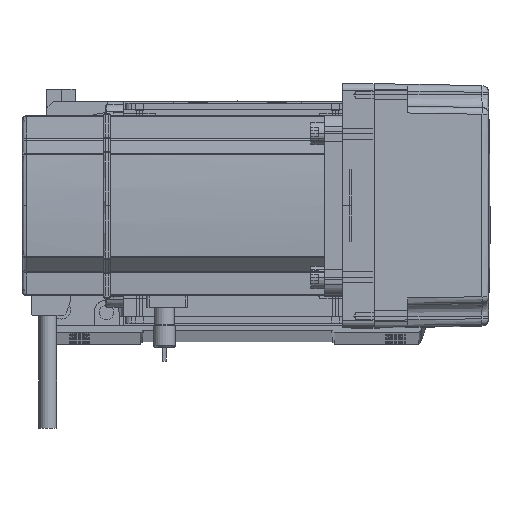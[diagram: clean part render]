
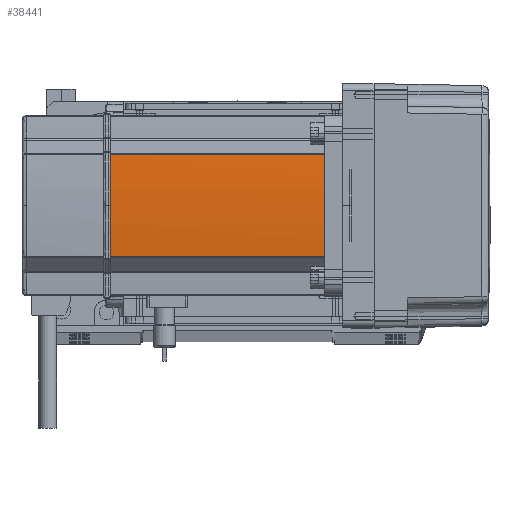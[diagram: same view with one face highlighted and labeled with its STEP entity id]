
A CAD part, top view. The second image highlights one B-rep face of the part: STEP entity #38441.
In plain terms, the highlighted cylindrical face has radius 270 mm (diameter 540 mm), a partial arc.
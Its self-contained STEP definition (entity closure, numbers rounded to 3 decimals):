
#366 = CARTESIAN_POINT ( 'NONE',  ( -39.042, -22.724, 0. ) ) ;
#3250 = CARTESIAN_POINT ( 'NONE',  ( 230., 0., 39. ) ) ;
#3257 = EDGE_LOOP ( 'NONE', ( #53293, #23227, #5474, #30012, #52969 ) ) ;
#3406 = VERTEX_POINT ( 'NONE', #59923 ) ;
#4244 = CIRCLE ( 'NONE', #34219, 270. ) ;
#5360 = FACE_OUTER_BOUND ( 'NONE', #3257, .T. ) ;
#5474 = ORIENTED_EDGE ( 'NONE', *, *, #11041, .T. ) ;
#5547 = AXIS2_PLACEMENT_3D ( 'NONE', #3250, #38867, #28820 ) ;
#6357 = CARTESIAN_POINT ( 'NONE',  ( 230., 0., 134. ) ) ;
#6747 = CIRCLE ( 'NONE', #54566, 270. ) ;
#11041 = EDGE_CURVE ( 'NONE', #57962, #34249, #50088, .T. ) ;
#13545 = CARTESIAN_POINT ( 'NONE',  ( -39.042, -22.724, 134. ) ) ;
#14974 = DIRECTION ( 'NONE',  ( 0., 0., 1. ) ) ;
#17435 = CARTESIAN_POINT ( 'NONE',  ( -39.042, 22.724, 0. ) ) ;
#18093 = DIRECTION ( 'NONE',  ( 0., 0., -1. ) ) ;
#18839 = EDGE_CURVE ( 'NONE', #41928, #34249, #33074, .T. ) ;
#20083 = DIRECTION ( 'NONE',  ( 1., 0., 0. ) ) ;
#23227 = ORIENTED_EDGE ( 'NONE', *, *, #34364, .T. ) ;
#28820 = DIRECTION ( 'NONE',  ( 1., 0., 0. ) ) ;
#30012 = ORIENTED_EDGE ( 'NONE', *, *, #18839, .F. ) ;
#30167 = VECTOR ( 'NONE', #18093, 1000. ) ;
#32384 = DIRECTION ( 'NONE',  ( 0., 0., -1. ) ) ;
#33074 = CIRCLE ( 'NONE', #5547, 270. ) ;
#34219 = AXIS2_PLACEMENT_3D ( 'NONE', #6357, #32384, #62189 ) ;
#34249 = VERTEX_POINT ( 'NONE', #43891 ) ;
#34364 = EDGE_CURVE ( 'NONE', #3406, #57962, #6747, .T. ) ;
#37745 = LINE ( 'NONE', #366, #44011 ) ;
#38441 = ADVANCED_FACE ( 'NONE', ( #5360 ), #62688, .T. ) ;
#38867 = DIRECTION ( 'NONE',  ( 0., 0., -1. ) ) ;
#41928 = VERTEX_POINT ( 'NONE', #65393 ) ;
#43891 = CARTESIAN_POINT ( 'NONE',  ( -39.042, 22.724, 39. ) ) ;
#44011 = VECTOR ( 'NONE', #61507, 1000. ) ;
#45075 = EDGE_CURVE ( 'NONE', #55464, #3406, #4244, .T. ) ;
#50084 = CARTESIAN_POINT ( 'NONE',  ( 230., 0., 134. ) ) ;
#50088 = LINE ( 'NONE', #17435, #30167 ) ;
#52969 = ORIENTED_EDGE ( 'NONE', *, *, #62962, .T. ) ;
#53293 = ORIENTED_EDGE ( 'NONE', *, *, #45075, .T. ) ;
#54566 = AXIS2_PLACEMENT_3D ( 'NONE', #50084, #60087, #55612 ) ;
#55464 = VERTEX_POINT ( 'NONE', #13545 ) ;
#55612 = DIRECTION ( 'NONE',  ( 1., 0., 0. ) ) ;
#57962 = VERTEX_POINT ( 'NONE', #62108 ) ;
#59923 = CARTESIAN_POINT ( 'NONE',  ( -40., 0., 134. ) ) ;
#60087 = DIRECTION ( 'NONE',  ( 0., 0., -1. ) ) ;
#60163 = CARTESIAN_POINT ( 'NONE',  ( 230., 0., 0. ) ) ;
#61507 = DIRECTION ( 'NONE',  ( 0., 0., 1. ) ) ;
#62108 = CARTESIAN_POINT ( 'NONE',  ( -39.042, 22.724, 134. ) ) ;
#62189 = DIRECTION ( 'NONE',  ( 1., 0., 0. ) ) ;
#62688 = CYLINDRICAL_SURFACE ( 'NONE', #63302, 270. ) ;
#62962 = EDGE_CURVE ( 'NONE', #41928, #55464, #37745, .T. ) ;
#63302 = AXIS2_PLACEMENT_3D ( 'NONE', #60163, #14974, #20083 ) ;
#65393 = CARTESIAN_POINT ( 'NONE',  ( -39.042, -22.724, 39. ) ) ;
